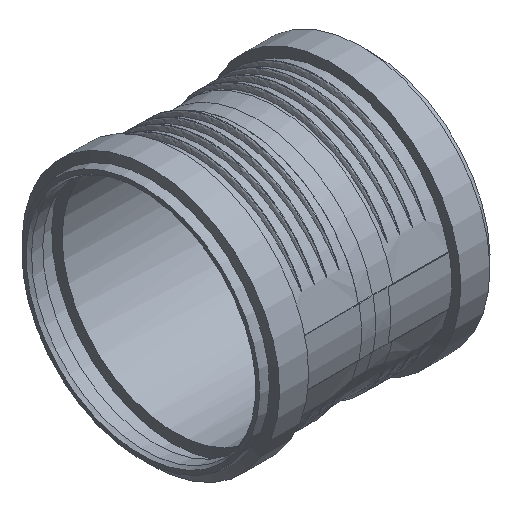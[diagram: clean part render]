
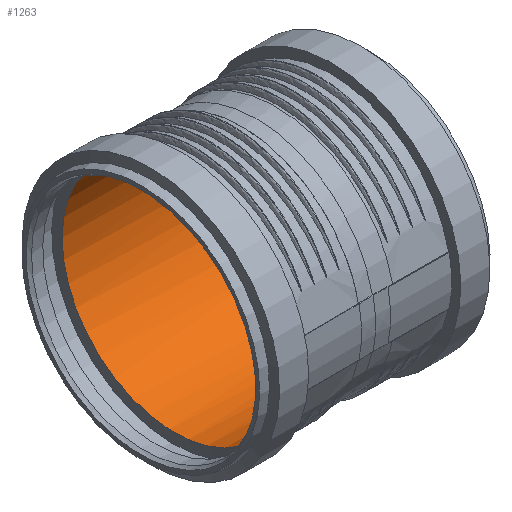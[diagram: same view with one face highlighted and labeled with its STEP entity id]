
A CAD part, isometric view. The second image highlights one B-rep face of the part: STEP entity #1263.
In plain terms, the highlighted cylindrical face has radius 80.6 mm (diameter 161.2 mm), a full revolution.
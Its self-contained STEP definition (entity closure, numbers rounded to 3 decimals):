
#173=FACE_OUTER_BOUND('',#253,.T.);
#253=EDGE_LOOP('',(#858,#859,#860,#861,#862));
#353=LINE('',#2430,#379);
#379=VECTOR('',#1540,80.6);
#403=CIRCLE('',#1361,80.6);
#404=CIRCLE('',#1362,80.6);
#405=CIRCLE('',#1364,80.6);
#505=VERTEX_POINT('',#1781);
#506=VERTEX_POINT('',#1782);
#507=VERTEX_POINT('',#1787);
#640=EDGE_CURVE('',#505,#506,#403,.T.);
#641=EDGE_CURVE('',#506,#505,#404,.T.);
#643=EDGE_CURVE('',#507,#507,#405,.T.);
#667=EDGE_CURVE('',#505,#507,#353,.T.);
#858=ORIENTED_EDGE('',*,*,#640,.T.);
#859=ORIENTED_EDGE('',*,*,#641,.T.);
#860=ORIENTED_EDGE('',*,*,#667,.T.);
#861=ORIENTED_EDGE('',*,*,#643,.T.);
#862=ORIENTED_EDGE('',*,*,#667,.F.);
#1174=CYLINDRICAL_SURFACE('',#1377,80.6);
#1263=ADVANCED_FACE('',(#173),#1174,.F.);
#1361=AXIS2_PLACEMENT_3D('',#1783,#1501,#1502);
#1362=AXIS2_PLACEMENT_3D('',#1784,#1503,#1504);
#1364=AXIS2_PLACEMENT_3D('',#1788,#1508,#1509);
#1377=AXIS2_PLACEMENT_3D('',#2429,#1538,#1539);
#1501=DIRECTION('center_axis',(-1.,0.,0.));
#1502=DIRECTION('ref_axis',(0.,-0.878,-0.479));
#1503=DIRECTION('center_axis',(-1.,0.,0.));
#1504=DIRECTION('ref_axis',(0.,-0.878,-0.479));
#1508=DIRECTION('center_axis',(1.,0.,0.));
#1509=DIRECTION('ref_axis',(0.,-0.878,-0.479));
#1538=DIRECTION('center_axis',(1.,0.,0.));
#1539=DIRECTION('ref_axis',(0.,-0.878,-0.479));
#1540=DIRECTION('',(1.,0.,0.));
#1781=CARTESIAN_POINT('',(-58.3,70.733,38.642));
#1782=CARTESIAN_POINT('',(-58.3,70.733,-38.642));
#1783=CARTESIAN_POINT('Origin',(-58.3,0.,0.));
#1784=CARTESIAN_POINT('Origin',(-58.3,0.,0.));
#1787=CARTESIAN_POINT('',(58.301,70.733,38.642));
#1788=CARTESIAN_POINT('Origin',(58.301,0.,0.));
#2429=CARTESIAN_POINT('Origin',(57.5,0.,0.));
#2430=CARTESIAN_POINT('',(57.5,70.733,38.642));
